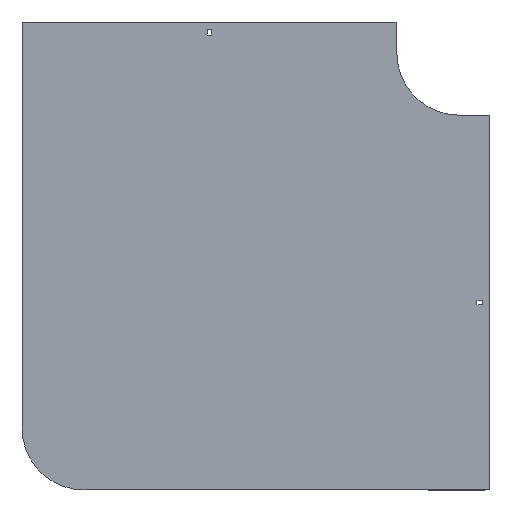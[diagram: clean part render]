
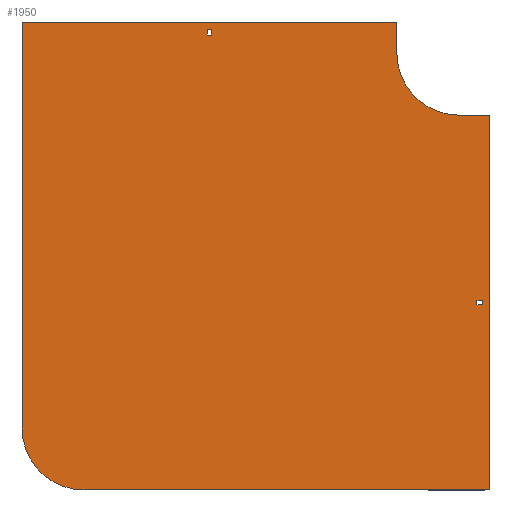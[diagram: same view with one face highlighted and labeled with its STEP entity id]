
A CAD part, front view. The second image highlights one B-rep face of the part: STEP entity #1950.
In plain terms, the highlighted planar face has unit normal (0, -1, 0).
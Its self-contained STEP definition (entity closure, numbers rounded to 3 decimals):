
#32 = CARTESIAN_POINT ( 'NONE',  ( -604., 0., -704. ) ) ;
#35 = VERTEX_POINT ( 'NONE', #1565 ) ;
#52 = ORIENTED_EDGE ( 'NONE', *, *, #1751, .T. ) ;
#54 = CARTESIAN_POINT ( 'NONE',  ( 50., 0., -704. ) ) ;
#72 = LINE ( 'NONE', #838, #1748 ) ;
#103 = DIRECTION ( 'NONE',  ( 0., 0., -1. ) ) ;
#110 = EDGE_CURVE ( 'NONE', #726, #35, #997, .T. ) ;
#112 = ORIENTED_EDGE ( 'NONE', *, *, #970, .F. ) ;
#114 = FACE_BOUND ( 'NONE', #491, .T. ) ;
#137 = ORIENTED_EDGE ( 'NONE', *, *, #1475, .F. ) ;
#161 = EDGE_CURVE ( 'NONE', #35, #713, #72, .T. ) ;
#165 = ORIENTED_EDGE ( 'NONE', *, *, #1451, .F. ) ;
#180 = CARTESIAN_POINT ( 'NONE',  ( -405.25, 0., 29. ) ) ;
#185 = DIRECTION ( 'NONE',  ( 0., 1., 0. ) ) ;
#213 = CARTESIAN_POINT ( 'NONE',  ( -704., 0., -604. ) ) ;
#214 = EDGE_CURVE ( 'NONE', #1769, #1219, #1153, .T. ) ;
#277 = EDGE_CURVE ( 'NONE', #1219, #708, #1678, .T. ) ;
#289 = ORIENTED_EDGE ( 'NONE', *, *, #1639, .F. ) ;
#295 = LINE ( 'NONE', #1668, #1184 ) ;
#298 = CARTESIAN_POINT ( 'NONE',  ( -398.75, 0., 29. ) ) ;
#321 = VECTOR ( 'NONE', #550, 1000. ) ;
#324 = CARTESIAN_POINT ( 'NONE',  ( 38., 0., -405.25 ) ) ;
#357 = LINE ( 'NONE', #54, #1417 ) ;
#360 = CARTESIAN_POINT ( 'NONE',  ( 38., 0., -405.25 ) ) ;
#386 = DIRECTION ( 'NONE',  ( 1., 0., 0. ) ) ;
#397 = LINE ( 'NONE', #1323, #321 ) ;
#401 = VERTEX_POINT ( 'NONE', #1112 ) ;
#415 = ORIENTED_EDGE ( 'NONE', *, *, #110, .T. ) ;
#450 = LINE ( 'NONE', #1640, #1126 ) ;
#491 = EDGE_LOOP ( 'NONE', ( #415, #1696, #52, #1347 ) ) ;
#504 = VECTOR ( 'NONE', #1773, 1000. ) ;
#542 = VERTEX_POINT ( 'NONE', #1550 ) ;
#546 = PLANE ( 'NONE',  #1248 ) ;
#550 = DIRECTION ( 'NONE',  ( 0., 0., -1. ) ) ;
#552 = DIRECTION ( 'NONE',  ( 1., 0., 0. ) ) ;
#611 = LINE ( 'NONE', #903, #504 ) ;
#618 = DIRECTION ( 'NONE',  ( 0., 0., 1. ) ) ;
#624 = CARTESIAN_POINT ( 'NONE',  ( 29., 0., -398.75 ) ) ;
#644 = EDGE_CURVE ( 'NONE', #1113, #726, #1795, .T. ) ;
#667 = DIRECTION ( 'NONE',  ( -1., 0., 0. ) ) ;
#679 = EDGE_CURVE ( 'NONE', #542, #401, #1029, .T. ) ;
#700 = ORIENTED_EDGE ( 'NONE', *, *, #1139, .F. ) ;
#708 = VERTEX_POINT ( 'NONE', #1619 ) ;
#713 = VERTEX_POINT ( 'NONE', #1680 ) ;
#724 = FACE_OUTER_BOUND ( 'NONE', #1413, .T. ) ;
#726 = VERTEX_POINT ( 'NONE', #180 ) ;
#736 = CARTESIAN_POINT ( 'NONE',  ( 50., 0., -100. ) ) ;
#783 = CARTESIAN_POINT ( 'NONE',  ( 29., 0., -398.75 ) ) ;
#820 = CIRCLE ( 'NONE', #1366, 100. ) ;
#838 = CARTESIAN_POINT ( 'NONE',  ( -405.25, 0., 38. ) ) ;
#854 = VECTOR ( 'NONE', #1535, 1000. ) ;
#879 = CARTESIAN_POINT ( 'NONE',  ( 29., 0., -405.25 ) ) ;
#884 = VECTOR ( 'NONE', #1492, 1000. ) ;
#888 = EDGE_LOOP ( 'NONE', ( #1187, #1740, #137, #1198 ) ) ;
#898 = CARTESIAN_POINT ( 'NONE',  ( -405.25, 0., 29. ) ) ;
#903 = CARTESIAN_POINT ( 'NONE',  ( -100., 0., 50. ) ) ;
#970 = EDGE_CURVE ( 'NONE', #1727, #1252, #1576, .T. ) ;
#977 = ORIENTED_EDGE ( 'NONE', *, *, #1613, .F. ) ;
#997 = LINE ( 'NONE', #1253, #1762 ) ;
#1010 = VERTEX_POINT ( 'NONE', #736 ) ;
#1017 = VERTEX_POINT ( 'NONE', #1922 ) ;
#1029 = CIRCLE ( 'NONE', #1654, 100. ) ;
#1032 = DIRECTION ( 'NONE',  ( 0., 0., 1. ) ) ;
#1040 = VECTOR ( 'NONE', #618, 1000. ) ;
#1047 = CARTESIAN_POINT ( 'NONE',  ( 29., 0., -405.25 ) ) ;
#1053 = ORIENTED_EDGE ( 'NONE', *, *, #679, .F. ) ;
#1073 = DIRECTION ( 'NONE',  ( 0., 0., -1. ) ) ;
#1076 = VECTOR ( 'NONE', #552, 1000. ) ;
#1080 = CARTESIAN_POINT ( 'NONE',  ( -604., 0., -604. ) ) ;
#1091 = CARTESIAN_POINT ( 'NONE',  ( -100., 0., 50. ) ) ;
#1112 = CARTESIAN_POINT ( 'NONE',  ( 0., 0., -100. ) ) ;
#1113 = VERTEX_POINT ( 'NONE', #1579 ) ;
#1117 = VERTEX_POINT ( 'NONE', #213 ) ;
#1126 = VECTOR ( 'NONE', #1032, 1000. ) ;
#1134 = EDGE_CURVE ( 'NONE', #1017, #1224, #357, .T. ) ;
#1139 = EDGE_CURVE ( 'NONE', #1010, #1017, #397, .T. ) ;
#1141 = CARTESIAN_POINT ( 'NONE',  ( 0., 0., 0. ) ) ;
#1153 = LINE ( 'NONE', #879, #884 ) ;
#1168 = DIRECTION ( 'NONE',  ( 0., 0., -1. ) ) ;
#1184 = VECTOR ( 'NONE', #1168, 1000. ) ;
#1187 = ORIENTED_EDGE ( 'NONE', *, *, #277, .F. ) ;
#1198 = ORIENTED_EDGE ( 'NONE', *, *, #1659, .F. ) ;
#1219 = VERTEX_POINT ( 'NONE', #360 ) ;
#1224 = VERTEX_POINT ( 'NONE', #32 ) ;
#1225 = DIRECTION ( 'NONE',  ( 0., 0., 1. ) ) ;
#1248 = AXIS2_PLACEMENT_3D ( 'NONE', #1141, #1596, #103 ) ;
#1252 = VERTEX_POINT ( 'NONE', #1091 ) ;
#1253 = CARTESIAN_POINT ( 'NONE',  ( -405.25, 0., 29. ) ) ;
#1293 = FACE_BOUND ( 'NONE', #888, .T. ) ;
#1298 = VECTOR ( 'NONE', #1489, 1000. ) ;
#1323 = CARTESIAN_POINT ( 'NONE',  ( 50., 0., -100. ) ) ;
#1347 = ORIENTED_EDGE ( 'NONE', *, *, #644, .T. ) ;
#1351 = LINE ( 'NONE', #298, #1472 ) ;
#1366 = AXIS2_PLACEMENT_3D ( 'NONE', #1080, #185, #1225 ) ;
#1410 = DIRECTION ( 'NONE',  ( 1., 0., 0. ) ) ;
#1413 = EDGE_LOOP ( 'NONE', ( #112, #165, #289, #1574, #700, #977, #1053, #1482 ) ) ;
#1415 = EDGE_CURVE ( 'NONE', #1252, #542, #611, .T. ) ;
#1417 = VECTOR ( 'NONE', #667, 1000. ) ;
#1429 = CARTESIAN_POINT ( 'NONE',  ( 0., 0., -100. ) ) ;
#1451 = EDGE_CURVE ( 'NONE', #1117, #1727, #450, .T. ) ;
#1472 = VECTOR ( 'NONE', #1073, 1000. ) ;
#1475 = EDGE_CURVE ( 'NONE', #1636, #1769, #295, .T. ) ;
#1482 = ORIENTED_EDGE ( 'NONE', *, *, #1415, .F. ) ;
#1489 = DIRECTION ( 'NONE',  ( -1., 0., 0. ) ) ;
#1492 = DIRECTION ( 'NONE',  ( 1., 0., 0. ) ) ;
#1523 = CARTESIAN_POINT ( 'NONE',  ( -704., 0., 50. ) ) ;
#1535 = DIRECTION ( 'NONE',  ( -1., 0., 0. ) ) ;
#1546 = LINE ( 'NONE', #624, #854 ) ;
#1550 = CARTESIAN_POINT ( 'NONE',  ( -100., 0., 0. ) ) ;
#1565 = CARTESIAN_POINT ( 'NONE',  ( -405.25, 0., 38. ) ) ;
#1574 = ORIENTED_EDGE ( 'NONE', *, *, #1134, .F. ) ;
#1576 = LINE ( 'NONE', #1750, #1076 ) ;
#1579 = CARTESIAN_POINT ( 'NONE',  ( -398.75, 0., 29. ) ) ;
#1596 = DIRECTION ( 'NONE',  ( 0., -1., 0. ) ) ;
#1598 = DIRECTION ( 'NONE',  ( 0., 0., 1. ) ) ;
#1613 = EDGE_CURVE ( 'NONE', #401, #1010, #1725, .T. ) ;
#1619 = CARTESIAN_POINT ( 'NONE',  ( 38., 0., -398.75 ) ) ;
#1636 = VERTEX_POINT ( 'NONE', #783 ) ;
#1639 = EDGE_CURVE ( 'NONE', #1224, #1117, #820, .T. ) ;
#1640 = CARTESIAN_POINT ( 'NONE',  ( -704., 0., -604. ) ) ;
#1654 = AXIS2_PLACEMENT_3D ( 'NONE', #1930, #1763, #1923 ) ;
#1659 = EDGE_CURVE ( 'NONE', #708, #1636, #1546, .T. ) ;
#1668 = CARTESIAN_POINT ( 'NONE',  ( 29., 0., -405.25 ) ) ;
#1678 = LINE ( 'NONE', #324, #1040 ) ;
#1680 = CARTESIAN_POINT ( 'NONE',  ( -398.75, 0., 38. ) ) ;
#1690 = VECTOR ( 'NONE', #386, 1000. ) ;
#1696 = ORIENTED_EDGE ( 'NONE', *, *, #161, .T. ) ;
#1725 = LINE ( 'NONE', #1429, #1690 ) ;
#1727 = VERTEX_POINT ( 'NONE', #1523 ) ;
#1740 = ORIENTED_EDGE ( 'NONE', *, *, #214, .F. ) ;
#1748 = VECTOR ( 'NONE', #1410, 1000. ) ;
#1750 = CARTESIAN_POINT ( 'NONE',  ( -704., 0., 50. ) ) ;
#1751 = EDGE_CURVE ( 'NONE', #713, #1113, #1351, .T. ) ;
#1762 = VECTOR ( 'NONE', #1598, 1000. ) ;
#1763 = DIRECTION ( 'NONE',  ( 0., -1., 0. ) ) ;
#1769 = VERTEX_POINT ( 'NONE', #1047 ) ;
#1773 = DIRECTION ( 'NONE',  ( 0., 0., -1. ) ) ;
#1795 = LINE ( 'NONE', #898, #1298 ) ;
#1922 = CARTESIAN_POINT ( 'NONE',  ( 50., 0., -704. ) ) ;
#1923 = DIRECTION ( 'NONE',  ( 0., 0., -1. ) ) ;
#1930 = CARTESIAN_POINT ( 'NONE',  ( 0., 0., 0. ) ) ;
#1950 = ADVANCED_FACE ( 'NONE', ( #114, #724, #1293 ), #546, .T. ) ;
